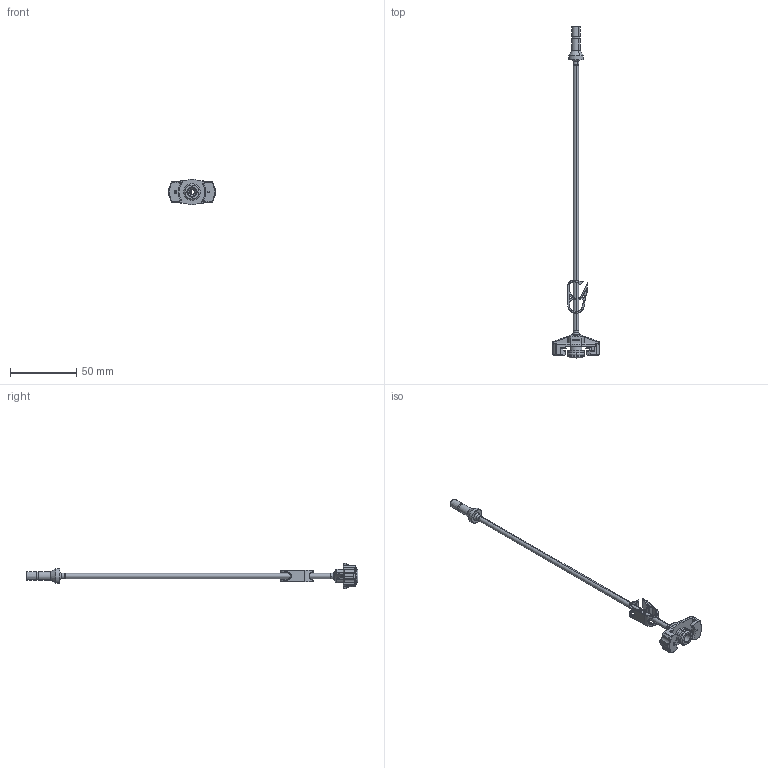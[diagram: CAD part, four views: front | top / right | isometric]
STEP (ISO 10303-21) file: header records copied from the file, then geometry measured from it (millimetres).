
FILE_DESCRIPTION (( 'STEP AP214' ), '1' );
FILE_NAME ('8001015_CUS.STEP', '2022-06-29T15:02:10', ( '' ), ( '' ), 'SwSTEP 2.0', 'SolidWorks 2020', '' );
FILE_SCHEMA (( 'AUTOMOTIVE_DESIGN' ));
Length unit declared in the file: millimetre
Products named in the file (1): 8001015_CUS
Bounding box: 36 x 250.02 x 19.4 mm (x, y, z)
Surface area: 8225.5 mm2 (no closed solid volume)
Topology: 0 solids, 16 shells, 448 faces, 1604 edges, 1090 vertices
Faces by surface type: cylinder 197, plane 103, torus 83, bspline 50, cone 13, sphere 2
Entity records: 25442 total; most frequent: CARTESIAN_POINT 7739, DIRECTION 2659, ORIENTED_EDGE 2425, EDGE_CURVE 1592, VERTEX_POINT 1088, AXIS2_PLACEMENT_3D 994, LINE 671, VECTOR 671
